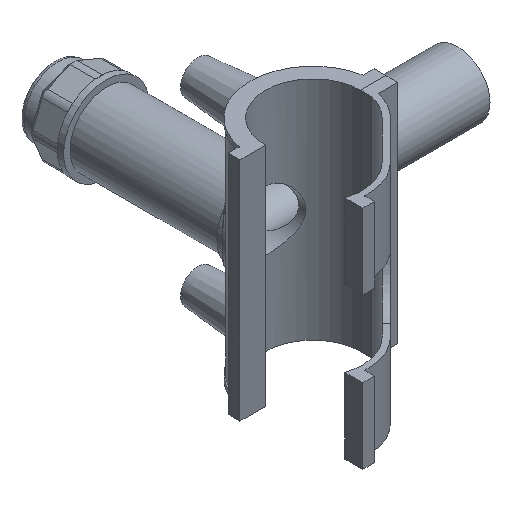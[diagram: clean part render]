
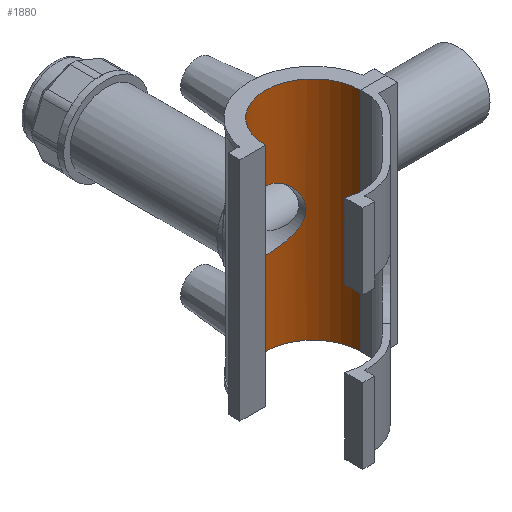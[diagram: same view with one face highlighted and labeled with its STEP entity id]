
A CAD part, isometric view. The second image highlights one B-rep face of the part: STEP entity #1880.
In plain terms, the highlighted cylindrical face has radius 21.05 mm (diameter 42.1 mm), a partial arc.
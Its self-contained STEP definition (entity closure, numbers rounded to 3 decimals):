
#42=FACE_BOUND('',#319,.T.);
#52=B_SPLINE_CURVE_WITH_KNOTS('',3,(#2826,#2827,#2828,#2829,#2830,#2831,
#2832,#2833,#2834,#2835,#2836,#2837,#2838,#2839,#2840,#2841,#2842,#2843,
#2844,#2845,#2846,#2847,#2848,#2849,#2850,#2851,#2852,#2853,#2854,#2855,
#2856,#2857,#2858,#2859,#2860,#2861,#2862,#2863),.UNSPECIFIED.,.F.,.F.,
(4,2,2,2,2,2,2,2,2,2,2,2,2,2,2,2,2,2,4),(0.,0.26,0.52,
1.039,1.554,1.812,2.07,2.327,
2.585,3.1,3.62,3.88,4.14,
4.399,4.659,5.179,5.694,5.952,
6.209),.UNSPECIFIED.);
#53=B_SPLINE_CURVE_WITH_KNOTS('',3,(#2864,#2865,#2866,#2867,#2868,#2869,
#2870,#2871,#2872,#2873,#2874,#2875,#2876,#2877),.UNSPECIFIED.,.F.,.F.,
(4,2,2,2,2,2,4),(6.209,6.467,6.725,7.24,
7.759,8.019,8.279),.UNSPECIFIED.);
#82=CIRCLE('',#2013,21.05);
#83=CIRCLE('',#2014,21.05);
#173=CYLINDRICAL_SURFACE('',#2012,21.05);
#207=FACE_OUTER_BOUND('',#318,.T.);
#318=EDGE_LOOP('',(#1240,#1241,#1242,#1243));
#319=EDGE_LOOP('',(#1244,#1245));
#445=LINE('',#2818,#602);
#446=LINE('',#2822,#603);
#602=VECTOR('',#2235,10.);
#603=VECTOR('',#2238,10.);
#759=VERTEX_POINT('',#2816);
#760=VERTEX_POINT('',#2817);
#761=VERTEX_POINT('',#2819);
#762=VERTEX_POINT('',#2821);
#763=VERTEX_POINT('',#2824);
#764=VERTEX_POINT('',#2825);
#950=EDGE_CURVE('',#759,#760,#445,.T.);
#951=EDGE_CURVE('',#761,#760,#82,.T.);
#952=EDGE_CURVE('',#761,#762,#446,.T.);
#953=EDGE_CURVE('',#759,#762,#83,.T.);
#954=EDGE_CURVE('',#763,#764,#52,.T.);
#955=EDGE_CURVE('',#764,#763,#53,.T.);
#1240=ORIENTED_EDGE('',*,*,#950,.T.);
#1241=ORIENTED_EDGE('',*,*,#951,.F.);
#1242=ORIENTED_EDGE('',*,*,#952,.T.);
#1243=ORIENTED_EDGE('',*,*,#953,.F.);
#1244=ORIENTED_EDGE('',*,*,#954,.T.);
#1245=ORIENTED_EDGE('',*,*,#955,.T.);
#1880=ADVANCED_FACE('',(#207,#42),#173,.F.);
#2012=AXIS2_PLACEMENT_3D('',#2815,#2233,#2234);
#2013=AXIS2_PLACEMENT_3D('',#2820,#2236,#2237);
#2014=AXIS2_PLACEMENT_3D('',#2823,#2239,#2240);
#2233=DIRECTION('center_axis',(0.,0.,1.));
#2234=DIRECTION('ref_axis',(-1.,0.,0.));
#2235=DIRECTION('',(0.,0.,1.));
#2236=DIRECTION('center_axis',(0.,0.,-1.));
#2237=DIRECTION('ref_axis',(-1.,0.,0.));
#2238=DIRECTION('',(0.,0.,-1.));
#2239=DIRECTION('center_axis',(0.,0.,1.));
#2240=DIRECTION('ref_axis',(-1.,0.,0.));
#2815=CARTESIAN_POINT('Origin',(0.,0.,0.));
#2816=CARTESIAN_POINT('',(21.05,0.05,-50.038));
#2817=CARTESIAN_POINT('',(21.05,0.05,50.038));
#2818=CARTESIAN_POINT('',(21.05,0.05,0.));
#2819=CARTESIAN_POINT('',(-21.05,0.05,50.038));
#2820=CARTESIAN_POINT('Origin',(0.,0.,50.038));
#2821=CARTESIAN_POINT('',(-21.05,0.05,-50.038));
#2822=CARTESIAN_POINT('',(-21.05,0.05,0.));
#2823=CARTESIAN_POINT('Origin',(0.,0.,-50.038));
#2824=CARTESIAN_POINT('',(-13.262,16.347,0.));
#2825=CARTESIAN_POINT('',(0.,21.05,-13.262));
#2826=CARTESIAN_POINT('Ctrl Pts',(-13.262,16.347,0.));
#2827=CARTESIAN_POINT('Ctrl Pts',(-13.262,16.347,0.866));
#2828=CARTESIAN_POINT('Ctrl Pts',(-13.175,16.418,1.748));
#2829=CARTESIAN_POINT('Ctrl Pts',(-12.827,16.692,3.483));
#2830=CARTESIAN_POINT('Ctrl Pts',(-12.564,16.895,4.335));
#2831=CARTESIAN_POINT('Ctrl Pts',(-11.541,17.624,6.766));
#2832=CARTESIAN_POINT('Ctrl Pts',(-10.533,18.271,8.222));
#2833=CARTESIAN_POINT('Ctrl Pts',(-8.232,19.416,10.523));
#2834=CARTESIAN_POINT('Ctrl Pts',(-6.773,20.001,11.538));
#2835=CARTESIAN_POINT('Ctrl Pts',(-4.331,20.617,12.565));
#2836=CARTESIAN_POINT('Ctrl Pts',(-3.476,20.78,12.829));
#2837=CARTESIAN_POINT('Ctrl Pts',(-1.739,20.996,13.177));
#2838=CARTESIAN_POINT('Ctrl Pts',(-0.859,21.05,13.262));
#2839=CARTESIAN_POINT('Ctrl Pts',(0.859,21.05,13.262));
#2840=CARTESIAN_POINT('Ctrl Pts',(1.739,20.996,13.177));
#2841=CARTESIAN_POINT('Ctrl Pts',(3.476,20.78,12.829));
#2842=CARTESIAN_POINT('Ctrl Pts',(4.331,20.617,12.565));
#2843=CARTESIAN_POINT('Ctrl Pts',(6.773,20.001,11.538));
#2844=CARTESIAN_POINT('Ctrl Pts',(8.232,19.416,10.523));
#2845=CARTESIAN_POINT('Ctrl Pts',(10.533,18.271,8.222));
#2846=CARTESIAN_POINT('Ctrl Pts',(11.541,17.624,6.766));
#2847=CARTESIAN_POINT('Ctrl Pts',(12.564,16.895,4.335));
#2848=CARTESIAN_POINT('Ctrl Pts',(12.827,16.692,3.483));
#2849=CARTESIAN_POINT('Ctrl Pts',(13.175,16.418,1.748));
#2850=CARTESIAN_POINT('Ctrl Pts',(13.262,16.347,0.866));
#2851=CARTESIAN_POINT('Ctrl Pts',(13.262,16.347,-0.866));
#2852=CARTESIAN_POINT('Ctrl Pts',(13.175,16.418,-1.748));
#2853=CARTESIAN_POINT('Ctrl Pts',(12.827,16.692,-3.483));
#2854=CARTESIAN_POINT('Ctrl Pts',(12.564,16.895,-4.335));
#2855=CARTESIAN_POINT('Ctrl Pts',(11.541,17.624,-6.766));
#2856=CARTESIAN_POINT('Ctrl Pts',(10.533,18.271,-8.222));
#2857=CARTESIAN_POINT('Ctrl Pts',(8.232,19.416,-10.523));
#2858=CARTESIAN_POINT('Ctrl Pts',(6.773,20.001,-11.538));
#2859=CARTESIAN_POINT('Ctrl Pts',(4.331,20.617,-12.565));
#2860=CARTESIAN_POINT('Ctrl Pts',(3.476,20.78,-12.829));
#2861=CARTESIAN_POINT('Ctrl Pts',(1.739,20.996,-13.177));
#2862=CARTESIAN_POINT('Ctrl Pts',(0.859,21.05,-13.262));
#2863=CARTESIAN_POINT('Ctrl Pts',(0.,21.05,-13.262));
#2864=CARTESIAN_POINT('Ctrl Pts',(0.,21.05,-13.262));
#2865=CARTESIAN_POINT('Ctrl Pts',(-0.859,21.05,-13.262));
#2866=CARTESIAN_POINT('Ctrl Pts',(-1.739,20.996,-13.177));
#2867=CARTESIAN_POINT('Ctrl Pts',(-3.476,20.78,-12.829));
#2868=CARTESIAN_POINT('Ctrl Pts',(-4.331,20.617,-12.565));
#2869=CARTESIAN_POINT('Ctrl Pts',(-6.773,20.001,-11.538));
#2870=CARTESIAN_POINT('Ctrl Pts',(-8.232,19.416,-10.523));
#2871=CARTESIAN_POINT('Ctrl Pts',(-10.533,18.271,-8.222));
#2872=CARTESIAN_POINT('Ctrl Pts',(-11.541,17.624,-6.766));
#2873=CARTESIAN_POINT('Ctrl Pts',(-12.564,16.895,-4.335));
#2874=CARTESIAN_POINT('Ctrl Pts',(-12.827,16.692,-3.483));
#2875=CARTESIAN_POINT('Ctrl Pts',(-13.175,16.418,-1.748));
#2876=CARTESIAN_POINT('Ctrl Pts',(-13.262,16.347,-0.866));
#2877=CARTESIAN_POINT('Ctrl Pts',(-13.262,16.347,0.));
